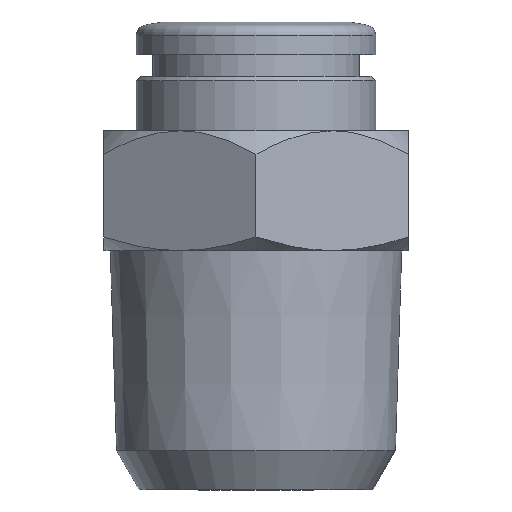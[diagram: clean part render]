
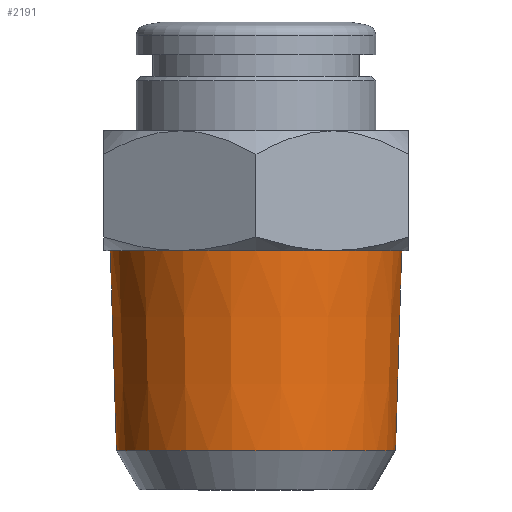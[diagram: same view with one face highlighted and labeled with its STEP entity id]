
A CAD part, left-side view. The second image highlights one B-rep face of the part: STEP entity #2191.
In plain terms, the highlighted conical face has half-angle 1.79 degrees and reference radius 6.694 mm.
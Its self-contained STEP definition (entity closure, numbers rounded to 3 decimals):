
#1116=CONICAL_SURFACE('',#2029,6.694,1.79);
#1141=ORIENTED_EDGE('',*,*,#1453,.F.);
#1142=ORIENTED_EDGE('',*,*,#1454,.F.);
#1339=CIRCLE('',#2030,6.407);
#1340=CIRCLE('',#2031,6.694);
#1384=VERTEX_POINT('',#2259);
#1385=VERTEX_POINT('',#2261);
#1453=EDGE_CURVE('',#1384,#1384,#1339,.T.);
#1454=EDGE_CURVE('',#1385,#1385,#1340,.T.);
#1552=EDGE_LOOP('',(#1141));
#1553=EDGE_LOOP('',(#1142));
#1640=FACE_BOUND('',#1552,.T.);
#1641=FACE_BOUND('',#1553,.T.);
#1732=DIRECTION('',(0.,1.,0.));
#1733=DIRECTION('',(0.,0.,1.));
#1734=DIRECTION('',(0.,-1.,0.));
#1735=DIRECTION('',(0.,0.,6.407));
#1736=DIRECTION('',(0.,1.,0.));
#1737=DIRECTION('',(0.,0.,-6.694));
#2029=AXIS2_PLACEMENT_3D('',#2258,#1732,#1733);
#2030=AXIS2_PLACEMENT_3D('',#2260,#1734,#1735);
#2031=AXIS2_PLACEMENT_3D('',#2262,#1736,#1737);
#2191=ADVANCED_FACE('',(#1640,#1641),#1116,.T.);
#2258=CARTESIAN_POINT('',(22.969,19.811,0.));
#2259=CARTESIAN_POINT('',(22.969,10.611,6.407));
#2260=CARTESIAN_POINT('',(22.969,10.611,0.));
#2261=CARTESIAN_POINT('',(22.969,19.811,-6.694));
#2262=CARTESIAN_POINT('',(22.969,19.811,0.));
